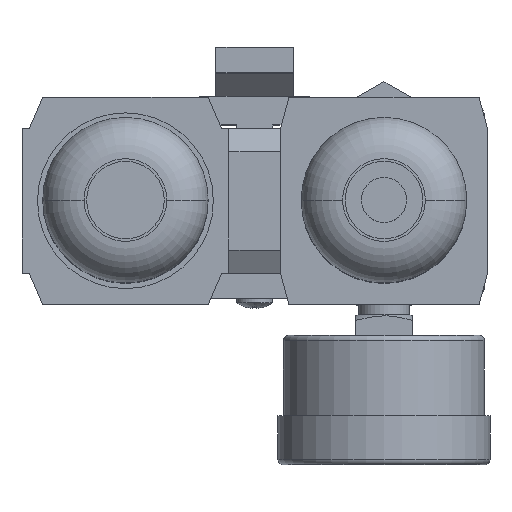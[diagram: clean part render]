
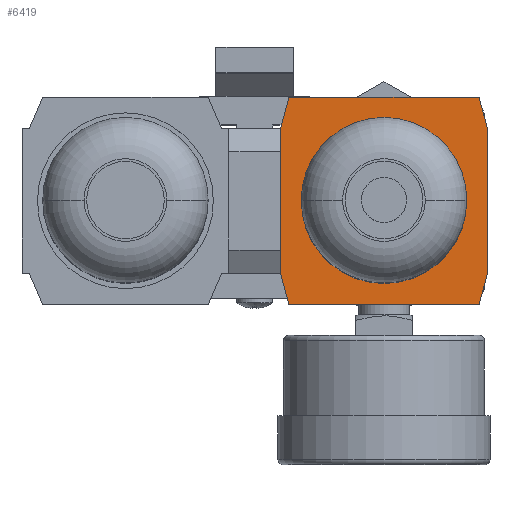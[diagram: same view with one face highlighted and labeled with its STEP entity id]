
A CAD part, top view. The second image highlights one B-rep face of the part: STEP entity #6419.
In plain terms, the highlighted planar face has unit normal (0, 0, 1).
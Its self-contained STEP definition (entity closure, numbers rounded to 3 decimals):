
#377 = EDGE_CURVE ( 'NONE', #12239, #435, #4141, .T. ) ;
#434 = ORIENTED_EDGE ( 'NONE', *, *, #8698, .F. ) ;
#435 = VERTEX_POINT ( 'NONE', #10452 ) ;
#595 = DIRECTION ( 'NONE',  ( 0., 0., -1. ) ) ;
#702 = DIRECTION ( 'NONE',  ( -0.259, -0.966, 0. ) ) ;
#1318 = CARTESIAN_POINT ( 'NONE',  ( 0., 0., 0. ) ) ;
#1418 = VECTOR ( 'NONE', #3267, 1000. ) ;
#1597 = ORIENTED_EDGE ( 'NONE', *, *, #12549, .F. ) ;
#2184 = VERTEX_POINT ( 'NONE', #5997 ) ;
#2208 = LINE ( 'NONE', #3354, #4088 ) ;
#2557 = AXIS2_PLACEMENT_3D ( 'NONE', #15562, #14358, #4468 ) ;
#2597 = EDGE_LOOP ( 'NONE', ( #11338, #15297 ) ) ;
#2677 = CARTESIAN_POINT ( 'NONE',  ( -15., 0., 0. ) ) ;
#3196 = EDGE_CURVE ( 'NONE', #10029, #11530, #5767, .T. ) ;
#3267 = DIRECTION ( 'NONE',  ( 0.259, 0.966, 0. ) ) ;
#3354 = CARTESIAN_POINT ( 'NONE',  ( -18.392, -20., 0. ) ) ;
#4088 = VECTOR ( 'NONE', #10575, 1000. ) ;
#4141 = LINE ( 'NONE', #14199, #9641 ) ;
#4203 = CARTESIAN_POINT ( 'NONE',  ( 18.392, 20., 0. ) ) ;
#4250 = CARTESIAN_POINT ( 'NONE',  ( 0., 0., 0. ) ) ;
#4431 = EDGE_CURVE ( 'NONE', #11530, #11428, #2208, .T. ) ;
#4468 = DIRECTION ( 'NONE',  ( 1., 0., 0. ) ) ;
#4566 = CARTESIAN_POINT ( 'NONE',  ( -20., 14., 0. ) ) ;
#5767 = LINE ( 'NONE', #10703, #13345 ) ;
#5989 = ORIENTED_EDGE ( 'NONE', *, *, #377, .F. ) ;
#5997 = CARTESIAN_POINT ( 'NONE',  ( 20., -14., 0. ) ) ;
#5998 = EDGE_CURVE ( 'NONE', #435, #2184, #9374, .T. ) ;
#6199 = DIRECTION ( 'NONE',  ( 1., 0., 0. ) ) ;
#6202 = VERTEX_POINT ( 'NONE', #10904 ) ;
#6419 = ADVANCED_FACE ( 'NONE', ( #13908, #11797 ), #12920, .F. ) ;
#6905 = AXIS2_PLACEMENT_3D ( 'NONE', #1318, #12595, #6199 ) ;
#6933 = VECTOR ( 'NONE', #702, 1000. ) ;
#7285 = DIRECTION ( 'NONE',  ( 1., 0., 0. ) ) ;
#7605 = CARTESIAN_POINT ( 'NONE',  ( -18.392, 20., 0. ) ) ;
#7928 = EDGE_CURVE ( 'NONE', #10523, #6202, #13891, .T. ) ;
#7991 = CARTESIAN_POINT ( 'NONE',  ( -18.392, -20., 0. ) ) ;
#8698 = EDGE_CURVE ( 'NONE', #11428, #9526, #10849, .T. ) ;
#8748 = LINE ( 'NONE', #7605, #13392 ) ;
#8886 = CARTESIAN_POINT ( 'NONE',  ( -18.392, 20., 0. ) ) ;
#9119 = EDGE_CURVE ( 'NONE', #9526, #9728, #12096, .T. ) ;
#9374 = LINE ( 'NONE', #15214, #11236 ) ;
#9377 = ORIENTED_EDGE ( 'NONE', *, *, #9119, .F. ) ;
#9379 = ORIENTED_EDGE ( 'NONE', *, *, #13105, .F. ) ;
#9526 = VERTEX_POINT ( 'NONE', #9789 ) ;
#9635 = DIRECTION ( 'NONE',  ( 0., 1., 0. ) ) ;
#9641 = VECTOR ( 'NONE', #15484, 1000. ) ;
#9728 = VERTEX_POINT ( 'NONE', #8886 ) ;
#9789 = CARTESIAN_POINT ( 'NONE',  ( -20., 14., 0. ) ) ;
#9976 = AXIS2_PLACEMENT_3D ( 'NONE', #4250, #595, #14056 ) ;
#10029 = VERTEX_POINT ( 'NONE', #13493 ) ;
#10452 = CARTESIAN_POINT ( 'NONE',  ( 20., 14., 0. ) ) ;
#10523 = VERTEX_POINT ( 'NONE', #2677 ) ;
#10575 = DIRECTION ( 'NONE',  ( -0.259, 0.966, 0. ) ) ;
#10703 = CARTESIAN_POINT ( 'NONE',  ( 18.392, -20., 0. ) ) ;
#10849 = LINE ( 'NONE', #11840, #15383 ) ;
#10904 = CARTESIAN_POINT ( 'NONE',  ( 15., 0., 0. ) ) ;
#11153 = EDGE_LOOP ( 'NONE', ( #434, #13258, #11582, #9379, #13730, #5989, #1597, #9377 ) ) ;
#11236 = VECTOR ( 'NONE', #11573, 1000. ) ;
#11338 = ORIENTED_EDGE ( 'NONE', *, *, #7928, .T. ) ;
#11428 = VERTEX_POINT ( 'NONE', #14050 ) ;
#11530 = VERTEX_POINT ( 'NONE', #7991 ) ;
#11573 = DIRECTION ( 'NONE',  ( 0., -1., 0. ) ) ;
#11582 = ORIENTED_EDGE ( 'NONE', *, *, #3196, .F. ) ;
#11649 = CARTESIAN_POINT ( 'NONE',  ( 20., -14., 0. ) ) ;
#11797 = FACE_BOUND ( 'NONE', #2597, .T. ) ;
#11840 = CARTESIAN_POINT ( 'NONE',  ( -20., -14., 0. ) ) ;
#12096 = LINE ( 'NONE', #4566, #1418 ) ;
#12239 = VERTEX_POINT ( 'NONE', #4203 ) ;
#12549 = EDGE_CURVE ( 'NONE', #9728, #12239, #8748, .T. ) ;
#12595 = DIRECTION ( 'NONE',  ( 0., 0., -1. ) ) ;
#12920 = PLANE ( 'NONE',  #9976 ) ;
#13105 = EDGE_CURVE ( 'NONE', #2184, #10029, #13920, .T. ) ;
#13258 = ORIENTED_EDGE ( 'NONE', *, *, #4431, .F. ) ;
#13345 = VECTOR ( 'NONE', #15644, 1000. ) ;
#13392 = VECTOR ( 'NONE', #7285, 1000. ) ;
#13493 = CARTESIAN_POINT ( 'NONE',  ( 18.392, -20., 0. ) ) ;
#13730 = ORIENTED_EDGE ( 'NONE', *, *, #5998, .F. ) ;
#13891 = CIRCLE ( 'NONE', #6905, 15. ) ;
#13908 = FACE_OUTER_BOUND ( 'NONE', #11153, .T. ) ;
#13920 = LINE ( 'NONE', #11649, #6933 ) ;
#14050 = CARTESIAN_POINT ( 'NONE',  ( -20., -14., 0. ) ) ;
#14052 = EDGE_CURVE ( 'NONE', #6202, #10523, #16011, .T. ) ;
#14056 = DIRECTION ( 'NONE',  ( 1., 0., 0. ) ) ;
#14199 = CARTESIAN_POINT ( 'NONE',  ( 18.392, 20., 0. ) ) ;
#14358 = DIRECTION ( 'NONE',  ( 0., 0., -1. ) ) ;
#15214 = CARTESIAN_POINT ( 'NONE',  ( 20., 14., 0. ) ) ;
#15297 = ORIENTED_EDGE ( 'NONE', *, *, #14052, .T. ) ;
#15383 = VECTOR ( 'NONE', #9635, 1000. ) ;
#15484 = DIRECTION ( 'NONE',  ( 0.259, -0.966, 0. ) ) ;
#15562 = CARTESIAN_POINT ( 'NONE',  ( 0., 0., 0. ) ) ;
#15644 = DIRECTION ( 'NONE',  ( -1., 0., 0. ) ) ;
#16011 = CIRCLE ( 'NONE', #2557, 15. ) ;
